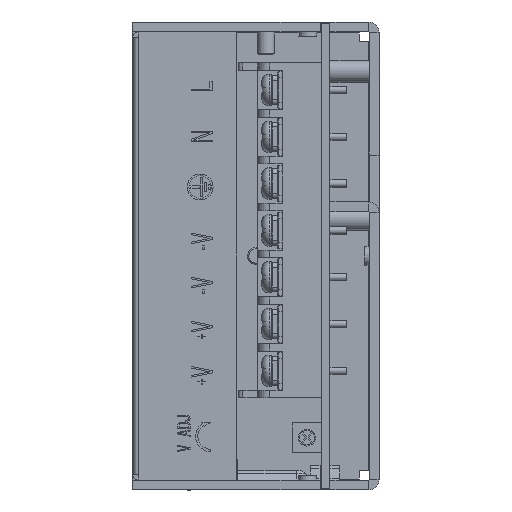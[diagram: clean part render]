
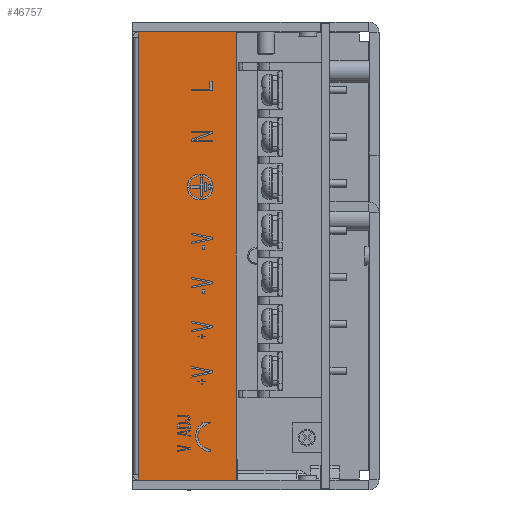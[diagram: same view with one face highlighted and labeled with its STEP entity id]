
A CAD part, left-side view. The second image highlights one B-rep face of the part: STEP entity #46757.
In plain terms, the highlighted planar face has unit normal (-1, 0, 0).
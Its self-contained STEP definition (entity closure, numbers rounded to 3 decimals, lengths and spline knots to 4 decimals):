
#559 = AXIS2_PLACEMENT_3D ( 'NONE', #13727, #13736, #13737 ) ;
#2010 = CARTESIAN_POINT ( 'NONE',  ( 0., -0.8268, -3.5827 ) ) ;
#2031 = CARTESIAN_POINT ( 'NONE',  ( 0., -0.8268, 0. ) ) ;
#2032 = CARTESIAN_POINT ( 'NONE',  ( 0., -0.0444, -3.5827 ) ) ;
#11341 = FACE_OUTER_BOUND ( 'NONE', #53582, .T. ) ;
#13727 = CARTESIAN_POINT ( 'NONE',  ( 0., -0.0394, -3.5827 ) ) ;
#13734 = PLANE ( 'NONE',  #559 ) ;
#13736 = DIRECTION ( 'NONE',  ( -1., 0., 0. ) ) ;
#13737 = DIRECTION ( 'NONE',  ( 0., -1., 0. ) ) ;
#24098 = VECTOR ( 'NONE', #27398, 39.3701 ) ;
#24100 = LINE ( 'NONE', #27394, #24098 ) ;
#24112 = VECTOR ( 'NONE', #27425, 39.3701 ) ;
#24118 = LINE ( 'NONE', #27420, #24112 ) ;
#25671 = CARTESIAN_POINT ( 'NONE',  ( 0., -0.0444, 0. ) ) ;
#25679 = CARTESIAN_POINT ( 'NONE',  ( 0., -0.0444, -3.5383 ) ) ;
#25682 = CARTESIAN_POINT ( 'NONE',  ( 0., -0.0444, -0.0444 ) ) ;
#27394 = CARTESIAN_POINT ( 'NONE',  ( 0., -0.0444, -3.5827 ) ) ;
#27398 = DIRECTION ( 'NONE',  ( 0., 0., -1. ) ) ;
#27420 = CARTESIAN_POINT ( 'NONE',  ( 0., -0.0444, -3.5827 ) ) ;
#27425 = DIRECTION ( 'NONE',  ( 0., 0., -1. ) ) ;
#29468 = LINE ( 'NONE', #30979, #29471 ) ;
#29471 = VECTOR ( 'NONE', #30984, 39.3701 ) ;
#30028 = LINE ( 'NONE', #31978, #30041 ) ;
#30041 = VECTOR ( 'NONE', #31981, 39.3701 ) ;
#30048 = LINE ( 'NONE', #31993, #30053 ) ;
#30053 = VECTOR ( 'NONE', #32000, 39.3701 ) ;
#30068 = LINE ( 'NONE', #32039, #30072 ) ;
#30072 = VECTOR ( 'NONE', #30996, 39.3701 ) ;
#30979 = CARTESIAN_POINT ( 'NONE',  ( 0., -0.0444, -3.5827 ) ) ;
#30984 = DIRECTION ( 'NONE',  ( 0., 0., -1. ) ) ;
#30996 = DIRECTION ( 'NONE',  ( 0., 1., 0. ) ) ;
#31978 = CARTESIAN_POINT ( 'NONE',  ( 0., -0.8268, -3.5827 ) ) ;
#31981 = DIRECTION ( 'NONE',  ( 0., 0., -1. ) ) ;
#31993 = CARTESIAN_POINT ( 'NONE',  ( 0., -0.8268, 0. ) ) ;
#32000 = DIRECTION ( 'NONE',  ( 0., -1., 0. ) ) ;
#32039 = CARTESIAN_POINT ( 'NONE',  ( 0., -0.0394, -3.5827 ) ) ;
#38222 = VERTEX_POINT ( 'NONE', #2010 ) ;
#38251 = VERTEX_POINT ( 'NONE', #2032 ) ;
#38256 = VERTEX_POINT ( 'NONE', #2031 ) ;
#46757 = ADVANCED_FACE ( 'NONE', ( #11341 ), #13734, .T. ) ;
#49202 = ORIENTED_EDGE ( 'NONE', *, *, #58696, .F. ) ;
#49206 = ORIENTED_EDGE ( 'NONE', *, *, #57044, .T. ) ;
#49210 = ORIENTED_EDGE ( 'NONE', *, *, #57067, .T. ) ;
#49216 = ORIENTED_EDGE ( 'NONE', *, *, #58040, .T. ) ;
#49218 = ORIENTED_EDGE ( 'NONE', *, *, #58724, .F. ) ;
#49489 = ORIENTED_EDGE ( 'NONE', *, *, #58683, .F. ) ;
#52266 = VERTEX_POINT ( 'NONE', #25671 ) ;
#52274 = VERTEX_POINT ( 'NONE', #25679 ) ;
#52277 = VERTEX_POINT ( 'NONE', #25682 ) ;
#53582 = EDGE_LOOP ( 'NONE', ( #49202, #49206, #49210, #49216, #49218, #49489 ) ) ;
#57044 = EDGE_CURVE ( 'NONE', #52266, #52277, #24100, .T. ) ;
#57067 = EDGE_CURVE ( 'NONE', #52277, #52274, #24118, .T. ) ;
#58040 = EDGE_CURVE ( 'NONE', #52274, #38251, #29468, .T. ) ;
#58683 = EDGE_CURVE ( 'NONE', #38256, #38222, #30028, .T. ) ;
#58696 = EDGE_CURVE ( 'NONE', #52266, #38256, #30048, .T. ) ;
#58724 = EDGE_CURVE ( 'NONE', #38222, #38251, #30068, .T. ) ;
